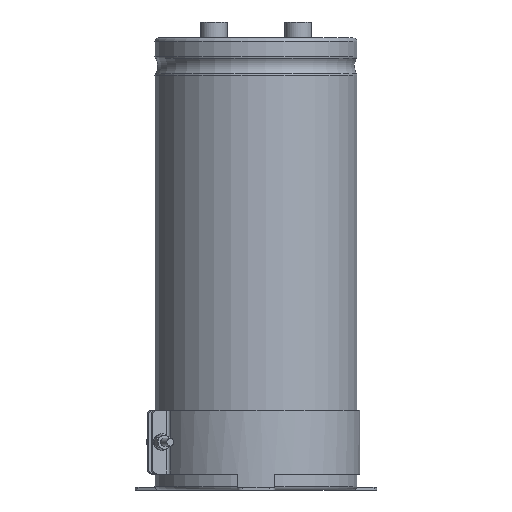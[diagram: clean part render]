
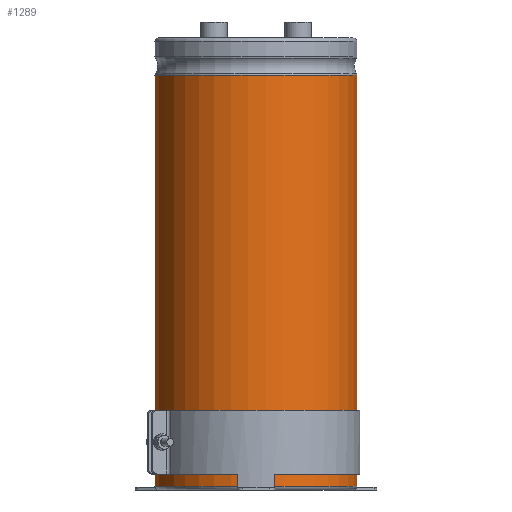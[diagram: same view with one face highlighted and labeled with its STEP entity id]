
A CAD part, left-side view. The second image highlights one B-rep face of the part: STEP entity #1289.
In plain terms, the highlighted cylindrical face has radius 38.1 mm (diameter 76.2 mm), a partial arc.
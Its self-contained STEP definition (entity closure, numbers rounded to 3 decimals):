
#233=LINE('',#6601,#447);
#234=LINE('',#6605,#448);
#447=VECTOR('',#5224,1.);
#448=VECTOR('',#5227,1.);
#695=FACE_OUTER_BOUND('',#1741,.T.);
#1289=ADVANCED_FACE('',(#695),#1519,.T.);
#1519=CYLINDRICAL_SURFACE('',#4585,38.1);
#1741=EDGE_LOOP('',(#2147,#2148,#2149,#2150));
#2147=ORIENTED_EDGE('',*,*,#3702,.T.);
#2148=ORIENTED_EDGE('',*,*,#3703,.T.);
#2149=ORIENTED_EDGE('',*,*,#3704,.F.);
#2150=ORIENTED_EDGE('',*,*,#3705,.F.);
#3274=VERTEX_POINT('',#6594);
#3276=VERTEX_POINT('',#6598);
#3277=VERTEX_POINT('',#6602);
#3278=VERTEX_POINT('',#6604);
#3702=EDGE_CURVE('',#3274,#3276,#4267,.T.);
#3703=EDGE_CURVE('',#3276,#3277,#233,.T.);
#3704=EDGE_CURVE('',#3278,#3277,#4268,.T.);
#3705=EDGE_CURVE('',#3274,#3278,#234,.T.);
#4267=CIRCLE('',#4582,38.1);
#4268=CIRCLE('',#4584,38.1);
#4582=AXIS2_PLACEMENT_3D('',#6599,#5220,#5221);
#4584=AXIS2_PLACEMENT_3D('',#6603,#5225,#5226);
#4585=AXIS2_PLACEMENT_3D('',#6606,#5228,#5229);
#5220=DIRECTION('',(0.,0.,-1.));
#5221=DIRECTION('',(0.,1.,0.));
#5224=DIRECTION('',(0.,0.,-1.));
#5225=DIRECTION('',(0.,0.,-1.));
#5226=DIRECTION('',(0.,1.,0.));
#5227=DIRECTION('',(0.,0.,-1.));
#5228=DIRECTION('',(0.,0.,-1.));
#5229=DIRECTION('',(0.,1.,0.));
#6594=CARTESIAN_POINT('',(3.983,37.891,155.9));
#6598=CARTESIAN_POINT('',(-3.983,37.891,155.9));
#6599=CARTESIAN_POINT('',(0.,0.,155.9));
#6601=CARTESIAN_POINT('',(-3.983,37.891,155.9));
#6602=CARTESIAN_POINT('',(-3.983,37.891,1.5));
#6603=CARTESIAN_POINT('',(0.,0.,1.5));
#6604=CARTESIAN_POINT('',(3.983,37.891,1.5));
#6605=CARTESIAN_POINT('',(3.983,37.891,155.9));
#6606=CARTESIAN_POINT('',(0.,0.,0.));
